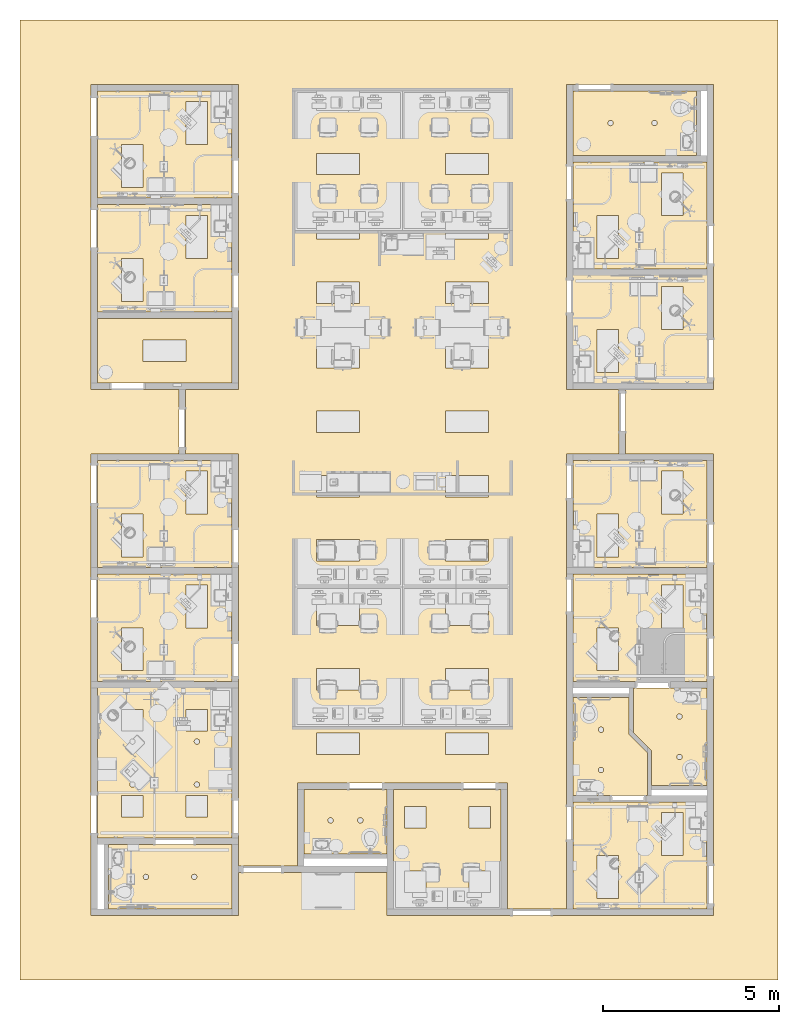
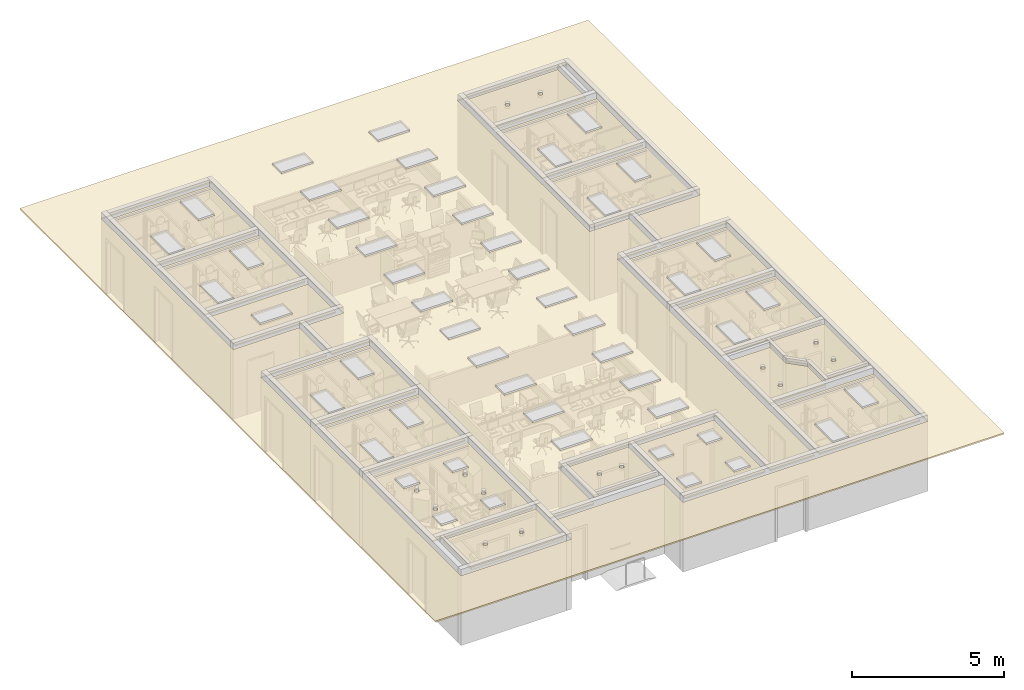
# One storey, part 5 of 142: 17 coverings.
"""IFC2X3 building model written with IfcOpenShell, lengths in feet."""

from ifc_helpers import new_model, entity, si_unit, converted_unit, derived_unit, direction, frame, frame_2d, origin, place, context, subcontext, project, spatial, polyline, circle_curve, parameter, trimmed, segment, composite_curve, outline, extrude, material, layer, layer_set, layer_usage, element, save


model = new_model("IFC2X3")

# Units and contexts
model_context = context("Model", 3, precision=0.0001, world=origin(), true_north=direction((6.12303176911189e-17, 1.0)))
body_context = subcontext(model_context, "Body", "Model", "MODEL_VIEW")
ifc_project = project(units=[converted_unit("LENGTHUNIT", "FOOT", entity("IfcRatioMeasure", 0.3048), si_unit("LENGTHUNIT", "METRE"), dimensions=[1, 0, 0, 0, 0, 0, 0]), converted_unit("AREAUNIT", "SQUARE FOOT", entity("IfcRatioMeasure", 0.09290304), si_unit("AREAUNIT", "SQUARE_METRE"), dimensions=[2, 0, 0, 0, 0, 0, 0]), converted_unit("VOLUMEUNIT", "CUBIC FOOT", entity("IfcRatioMeasure", 0.028316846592), si_unit("VOLUMEUNIT", "CUBIC_METRE"), dimensions=[3, 0, 0, 0, 0, 0, 0]), converted_unit("PLANEANGLEUNIT", "DEGREE", entity("IfcRatioMeasure", 0.0174532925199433), si_unit("PLANEANGLEUNIT", "RADIAN"), dimensions=[0, 0, 0, 0, 0, 0, 0]), si_unit("MASSUNIT", "GRAM", prefix="KILO"), derived_unit("MASSDENSITYUNIT", [(si_unit("MASSUNIT", "GRAM", prefix="KILO"), 1), (si_unit("LENGTHUNIT", "METRE"), -3)]), si_unit("TIMEUNIT", "SECOND"), si_unit("FREQUENCYUNIT", "HERTZ"), si_unit("THERMODYNAMICTEMPERATUREUNIT", "DEGREE_CELSIUS"), derived_unit("THERMALTRANSMITTANCEUNIT", [(si_unit("MASSUNIT", "GRAM", prefix="KILO"), 1), (si_unit("THERMODYNAMICTEMPERATUREUNIT", "KELVIN"), -1), (si_unit("TIMEUNIT", "SECOND"), -3)]), derived_unit("VOLUMETRICFLOWRATEUNIT", [(si_unit("LENGTHUNIT", "METRE"), 3), (si_unit("TIMEUNIT", "SECOND"), -1)]), si_unit("ELECTRICCURRENTUNIT", "AMPERE"), si_unit("ELECTRICVOLTAGEUNIT", "VOLT"), si_unit("POWERUNIT", "WATT"), si_unit("FORCEUNIT", "NEWTON"), si_unit("ILLUMINANCEUNIT", "LUX"), si_unit("LUMINOUSFLUXUNIT", "LUMEN"), si_unit("LUMINOUSINTENSITYUNIT", "CANDELA"), derived_unit("USERDEFINED", [(si_unit("MASSUNIT", "GRAM", prefix="KILO"), -1), (si_unit("LENGTHUNIT", "METRE"), -2), (si_unit("TIMEUNIT", "SECOND"), 3), (si_unit("LUMINOUSFLUXUNIT", "LUMEN"), 1)]), derived_unit("LINEARVELOCITYUNIT", [(si_unit("LENGTHUNIT", "METRE"), 1), (si_unit("TIMEUNIT", "SECOND"), -1)]), si_unit("PRESSUREUNIT", "PASCAL"), derived_unit("USERDEFINED", [(si_unit("LENGTHUNIT", "METRE"), -2), (si_unit("MASSUNIT", "GRAM", prefix="KILO"), 1), (si_unit("TIMEUNIT", "SECOND"), -2)])], contexts=[model_context])

# Site, building, storey
site_placement = place(None, origin())
site = spatial("IfcSite", under=ifc_project, at=site_placement, Name="Default", CompositionType="ELEMENT")
building_placement = place(site_placement, origin())
building = spatial("IfcBuilding", under=site, at=building_placement, Name="OUTPATIENT / PACT CLINIC (Ch. 265)", CompositionType="ELEMENT")
storey_placement = place(building_placement, origin())
storey = spatial("IfcBuildingStorey", under=building, at=storey_placement, Name="LEVEL 1", CompositionType="ELEMENT", Elevation=0.0)

# Coverings
ifc_material_1 = material(Name="<Unnamed>")
ifc_layer_1 = layer(ifc_material_1, 0.135416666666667)
ifc_material_2 = material(Name="Acoustic Ceiling Tile 24 x 24")
ifc_layer_2 = layer(ifc_material_2, 0.0520833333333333)
ifc_layer_set_1 = layer_set([ifc_layer_1, ifc_layer_2], Name="Compound Ceiling:2' x 2' ACT System")
ifc_layer_usage_1 = layer_usage(ifc_layer_set_1, "AXIS3", "POSITIVE", 0.0)
covering_1_placement = place(storey_placement, origin())
element("IfcCovering", 1, at=covering_1_placement, inside=storey, material=ifc_layer_usage_1, Name="Compound Ceiling:2' x 2' ACT System", ObjectType="Compound Ceiling:2' x 2' ACT System", PredefinedType="CEILING", context=body_context, shape_type="SweptSolid", body=[
    extrude(outline(polyline([(-35.3124299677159, -44.7187346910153), (35.3124299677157, -44.7187346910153), (35.3124299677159, 44.7187346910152), (-35.3124299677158, 44.7187346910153), (-35.3124299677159, -44.7187346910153)]), holes=[polyline([(20.4844450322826, -4.30206899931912), (20.4844450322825, -10.3020689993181), (28.6874299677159, -10.3020689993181), (28.6874299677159, -38.7187346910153), (14.9792366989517, -38.7187346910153), (14.9792366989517, -10.3020689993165), (19.8802783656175, -10.3020689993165), (19.8802783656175, -4.30206899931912), (14.9792366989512, -4.30206899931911), (14.9792366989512, 34.1145680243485), (9.47923669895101, 34.1145680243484), (9.479236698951, 26.385431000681), (-10.1042366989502, 26.385431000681), (-10.1042366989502, 38.1145680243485), (-15.6042439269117, 38.1145680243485), (-15.6042439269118, -4.30207903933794), (-20.50513830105, -4.30207903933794), (-20.50513830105, -10.3020689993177), (-15.6040966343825, -10.3020689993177), (-15.6040966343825, -38.7187346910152), (-29.3124314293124, -38.7187346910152), (-29.3124314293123, -10.3020689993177), (-21.1093049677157, -10.3020689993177), (-21.1093049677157, -4.30207903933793), (-29.3124299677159, -4.30207903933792), (-29.3124299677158, 38.7187346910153), (1.1040966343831, 38.7187346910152), (1.1040966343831, 34.7187346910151), (14.9792366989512, 34.7187346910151), (14.9792366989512, 38.7187346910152), (28.6874299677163, 38.7187346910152), (28.6874299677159, -4.30206899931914), (20.4844450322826, -4.30206899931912)]), polyline([(3.68757003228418, 11.6979310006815), (7.68757003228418, 11.6979310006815), (7.68757003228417, 9.69793100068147), (3.68757003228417, 9.69793100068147), (3.68757003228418, 11.6979310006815)]), polyline([(-8.31242996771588, 11.6979310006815), (-4.31242996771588, 11.6979310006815), (-4.31242996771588, 9.69793100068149), (-8.31242996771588, 9.69793100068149), (-8.31242996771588, 11.6979310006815)]), polyline([(-8.31242996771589, 5.69793100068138), (-4.31242996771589, 5.69793100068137), (-4.31242996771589, 3.69793100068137), (-8.31242996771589, 3.69793100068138), (-8.31242996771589, 5.69793100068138)]), polyline([(3.68757003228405, 5.69793100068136), (7.68757003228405, 5.69793100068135), (7.68757003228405, 3.69793100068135), (3.68757003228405, 3.69793100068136), (3.68757003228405, 5.69793100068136)]), polyline([(3.68757003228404, -0.302068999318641), (7.68757003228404, -0.302068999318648), (7.68757003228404, -2.30206899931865), (3.68757003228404, -2.30206899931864), (3.68757003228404, -0.302068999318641)]), polyline([(-8.31242996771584, -0.302068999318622), (-4.31242996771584, -0.302068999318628), (-4.31242996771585, -2.30206899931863), (-8.31242996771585, -2.30206899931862), (-8.31242996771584, -0.302068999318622)]), polyline([(-8.31242996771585, -6.30206899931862), (-4.31242996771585, -6.30206899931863), (-4.31242996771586, -8.30206899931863), (-8.31242996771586, -8.30206899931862), (-8.31242996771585, -6.30206899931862)]), polyline([(3.68757003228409, -6.30206899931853), (7.68757003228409, -6.30206899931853), (7.68757003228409, -8.30206899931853), (3.68757003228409, -8.30206899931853), (3.68757003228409, -6.30206899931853)]), polyline([(-8.31242996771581, -12.3020689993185), (-4.31242996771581, -12.3020689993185), (-4.31242996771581, -14.3020689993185), (-8.31242996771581, -14.3020689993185), (-8.31242996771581, -12.3020689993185)]), polyline([(3.68757003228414, -12.3020689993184), (7.68757003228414, -12.3020689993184), (7.68757003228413, -14.3020689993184), (3.68757003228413, -14.3020689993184), (3.68757003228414, -12.3020689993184)]), polyline([(3.68757003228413, -18.3020689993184), (7.68757003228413, -18.3020689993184), (7.68757003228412, -20.3020689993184), (3.68757003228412, -20.3020689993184), (3.68757003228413, -18.3020689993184)]), polyline([(-8.31242996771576, -18.3020689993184), (-4.31242996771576, -18.3020689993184), (-4.31242996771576, -20.3020689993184), (-8.31242996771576, -20.3020689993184), (-8.31242996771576, -18.3020689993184)]), polyline([(-8.312429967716, -24.3020689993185), (-4.312429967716, -24.3020689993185), (-4.312429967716, -26.3020689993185), (-8.312429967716, -26.3020689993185), (-8.312429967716, -24.3020689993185)]), polyline([(3.68757003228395, -24.3020689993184), (7.68757003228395, -24.3020689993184), (7.68757003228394, -26.3020689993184), (3.68757003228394, -26.3020689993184), (3.68757003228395, -24.3020689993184)]), polyline([(3.68757003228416, -30.3020689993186), (7.68757003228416, -30.3020689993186), (7.68757003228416, -32.3020689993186), (3.68757003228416, -32.3020689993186), (3.68757003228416, -30.3020689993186)]), polyline([(-8.31242996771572, -30.3020689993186), (-4.31242996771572, -30.3020689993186), (-4.31242996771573, -32.3020689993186), (-8.31242996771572, -32.3020689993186), (-8.31242996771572, -30.3020689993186)]), polyline([(-8.31242996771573, -36.3020689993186), (-4.31242996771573, -36.3020689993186), (-4.31242996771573, -38.3020689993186), (-8.31242996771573, -38.3020689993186), (-8.31242996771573, -36.3020689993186)]), polyline([(3.68757003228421, -36.3020689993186), (7.68757003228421, -36.3020689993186), (7.68757003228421, -38.3020689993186), (3.68757003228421, -38.3020689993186), (3.68757003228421, -36.3020689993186)]), polyline([(3.6875700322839, 17.6979310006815), (7.6875700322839, 17.6979310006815), (7.6875700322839, 15.6979310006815), (3.6875700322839, 15.6979310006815), (3.6875700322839, 17.6979310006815)]), polyline([(-8.31242996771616, 17.6979310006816), (-4.31242996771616, 17.6979310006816), (-4.31242996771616, 15.6979310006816), (-8.31242996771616, 15.6979310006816), (-8.31242996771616, 17.6979310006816)]), polyline([(3.68757003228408, 23.6979310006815), (7.68757003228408, 23.6979310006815), (7.68757003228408, 21.6979310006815), (3.68757003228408, 21.6979310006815), (3.68757003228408, 23.6979310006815)]), polyline([(-8.3124299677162, 23.6979310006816), (-4.3124299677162, 23.6979310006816), (-4.31242996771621, 21.6979310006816), (-8.31242996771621, 21.6979310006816), (-8.3124299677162, 23.6979310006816)])]), frame((419.046713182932, -914.535087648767, 9.0), z_axis=(0.0, 0.0, 1.0), x_axis=(-1.0, 0.0, 0.0)), (0.0, 0.0, 1.0), 0.1875),
])
ifc_layer_usage_2 = layer_usage(ifc_layer_set_1, "AXIS3", "POSITIVE", 0.0)
covering_2_placement = place(storey_placement, origin())
element("IfcCovering", 2, at=covering_2_placement, inside=storey, material=ifc_layer_usage_2, Name="Compound Ceiling:2' x 2' ACT System", ObjectType="Compound Ceiling:2' x 2' ACT System", PredefinedType="CEILING", context=body_context, shape_type="SweptSolid", body=[
    extrude(outline(polyline([(-5.56248517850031, -5.0), (5.56248517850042, -5.0), (5.56248517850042, 5.0), (-5.56248517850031, 5.0), (-5.56248517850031, -5.0)]), holes=[polyline([(-4.0, 4.0), (-2.0, 4.0), (-2.0, 2.0), (-4.0, 2.0), (-4.0, 4.0)]), polyline([(-4.0, -2.0), (-2.0, -2.0), (-2.0, -4.0), (-4.0, -4.0), (-4.0, -2.0)]), polyline([(2.0, 4.0), (4.0, 4.0), (4.0, 2.0), (2.0, 2.0), (2.0, 4.0)]), polyline([(2.0, -2.0), (4.0, -2.0), (4.0, -4.0), (2.0, -4.0), (2.0, -2.0)])]), frame((423.546783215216, -947.087170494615, 9.0), z_axis=(0.0, 0.0, 1.0), x_axis=(0.0, 1.0, 0.0)), (0.0, 0.0, 1.0), 0.1875),
])
ifc_layer_3 = layer(ifc_material_1, 0.302083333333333)
ifc_material_3 = material(Name="Gypsum Wallboard")
ifc_layer_4 = layer(ifc_material_3, 0.0520833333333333)
ifc_layer_set_2 = layer_set([ifc_layer_3, ifc_layer_4], Name="Compound Ceiling:GWB on Mtl. Stud")
ifc_layer_usage_3 = layer_usage(ifc_layer_set_2, "AXIS3", "POSITIVE", 0.0)
covering_3_placement = place(storey_placement, origin())
element("IfcCovering", 3, at=covering_3_placement, inside=storey, material=ifc_layer_usage_3, Name="Compound Ceiling:GWB on Mtl. Stud", ObjectType="Compound Ceiling:GWB on Mtl. Stud", PredefinedType="CEILING", context=body_context, shape_type="SweptSolid", body=[
    extrude(outline(polyline([(-2.99998517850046, -3.88548669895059), (2.99998517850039, -3.88548669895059), (2.99998517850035, 3.88548669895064), (-2.99998517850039, 3.8854866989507), (-2.99998517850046, -3.88548669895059)]), holes=[composite_curve([segment(trimmed(circle_curve(frame_2d((0.140624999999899, 1.38548669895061), x_axis=(0.0, -1.0)), 0.25), [parameter(180.0)], [parameter(1.01777749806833e-13)], True, "PARAMETER"), False, "CONTINUOUS"), segment(trimmed(circle_curve(frame_2d((0.140624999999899, 1.38548669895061), x_axis=(0.0, -1.0)), 0.25), [parameter(1.01777749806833e-13)], [parameter(180.0)], True, "PARAMETER"), False, "CONTINUOUS")], self_intersect=False), composite_curve([segment(trimmed(circle_curve(frame_2d((0.140624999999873, -1.38548669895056), x_axis=(0.0, -1.0)), 0.25), [parameter(180.0)], [parameter(1.01777749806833e-13)], True, "PARAMETER"), False, "CONTINUOUS"), segment(trimmed(circle_curve(frame_2d((0.140624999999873, -1.38548669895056), x_axis=(0.0, -1.0)), 0.25), [parameter(1.01777749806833e-13)], [parameter(180.0)], True, "PARAMETER"), False, "CONTINUOUS")], self_intersect=False)]), frame((414.057129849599, -944.524670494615, 9.0), z_axis=(0.0, 0.0, 1.0), x_axis=(0.0, 1.0, 0.0)), (0.0, 0.0, 1.0), 0.354166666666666),
    extrude(outline(polyline([(-4.59994397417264, -3.18408731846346), (6.8999159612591, -3.18408731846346), (6.89991596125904, 2.81586463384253), (-4.5999439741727, 2.81586463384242), (-4.59994397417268, 0.736445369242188), (-4.59994397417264, -3.18408731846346)]), holes=[composite_curve([segment(trimmed(circle_curve(frame_2d((3.39996264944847, -0.184111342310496), x_axis=(-1.0, 0.0)), 0.25), [parameter(180.0)], [parameter(1.01777749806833e-13)], True, "PARAMETER"), False, "CONTINUOUS"), segment(trimmed(circle_curve(frame_2d((3.39996264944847, -0.184111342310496), x_axis=(-1.0, 0.0)), 0.25), [parameter(1.01777749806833e-13)], [parameter(180.0)], True, "PARAMETER"), False, "CONTINUOUS")], self_intersect=False), composite_curve([segment(trimmed(circle_curve(frame_2d((-1.09999066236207, -0.184111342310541), x_axis=(-1.0, 0.0)), 0.25), [parameter(180.0)], [parameter(1.01777749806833e-13)], True, "PARAMETER"), False, "CONTINUOUS"), segment(trimmed(circle_curve(frame_2d((-1.09999066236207, -0.184111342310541), x_axis=(-1.0, 0.0)), 0.25), [parameter(1.01777749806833e-13)], [parameter(180.0)], True, "PARAMETER"), False, "CONTINUOUS")], self_intersect=False)]), frame((398.863365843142, -949.833791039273, 9.0), z_axis=(0.0, 0.0, 1.0), x_axis=(-1.0, 0.0, 0.0)), (0.0, 0.0, 1.0), 0.354166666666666),
])
ifc_layer_usage_4 = layer_usage(ifc_layer_set_1, "AXIS3", "POSITIVE", 0.0)
covering_4_placement = place(storey_placement, origin())
element("IfcCovering", 4, at=covering_4_placement, inside=storey, material=ifc_layer_usage_4, Name="Compound Ceiling:2' x 2' ACT System", ObjectType="Compound Ceiling:2' x 2' ACT System", PredefinedType="CEILING", context=body_context, shape_type="SweptSolid", body=[
    extrude(outline(polyline([(-6.24992996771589, -7.04078852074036), (6.24992996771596, -7.04078852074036), (6.24992996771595, 7.04078852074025), (-6.24992996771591, 7.04078852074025), (-6.24992996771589, -7.04078852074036)]), holes=[polyline([(4.0, 5.0407793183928), (4.0, 3.0407793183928), (2.0, 3.04077931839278), (2.0, 5.04077931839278), (4.0, 5.0407793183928)]), polyline([(-2.0, 5.04077931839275), (-2.0, 3.04077931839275), (-4.0, 3.04077931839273), (-4.0, 5.04077931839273), (-2.0, 5.04077931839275)]), composite_curve([segment(trimmed(circle_curve(frame_2d((-3.0, 2.04077011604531), x_axis=(-1.0, 0.0)), 0.25), [parameter(180.0)], [parameter(1.01777749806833e-13)], True, "PARAMETER"), False, "CONTINUOUS"), segment(trimmed(circle_curve(frame_2d((-3.0, 2.04077011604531), x_axis=(-1.0, 0.0)), 0.25), [parameter(1.01777749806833e-13)], [parameter(180.0)], True, "PARAMETER"), False, "CONTINUOUS")], self_intersect=False), composite_curve([segment(trimmed(circle_curve(frame_2d((3.0, 2.04077011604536), x_axis=(-1.0, 0.0)), 0.25), [parameter(180.0)], [parameter(1.01777749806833e-13)], True, "PARAMETER"), False, "CONTINUOUS"), segment(trimmed(circle_curve(frame_2d((3.0, 2.04077011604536), x_axis=(-1.0, 0.0)), 0.25), [parameter(1.01777749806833e-13)], [parameter(180.0)], True, "PARAMETER"), False, "CONTINUOUS")], self_intersect=False), composite_curve([segment(trimmed(circle_curve(frame_2d((-3.0, -1.95922068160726), x_axis=(-1.0, 0.0)), 0.25), [parameter(180.0)], [parameter(1.01777749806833e-13)], True, "PARAMETER"), False, "CONTINUOUS"), segment(trimmed(circle_curve(frame_2d((-3.0, -1.95922068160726), x_axis=(-1.0, 0.0)), 0.25), [parameter(1.01777749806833e-13)], [parameter(180.0)], True, "PARAMETER"), False, "CONTINUOUS")], self_intersect=False), composite_curve([segment(trimmed(circle_curve(frame_2d((3.0, -1.95922068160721), x_axis=(-1.0, 0.0)), 0.25), [parameter(180.0)], [parameter(1.01777749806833e-13)], True, "PARAMETER"), False, "CONTINUOUS"), segment(trimmed(circle_curve(frame_2d((3.0, -1.95922068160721), x_axis=(-1.0, 0.0)), 0.25), [parameter(1.01777749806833e-13)], [parameter(180.0)], True, "PARAMETER"), False, "CONTINUOUS")], self_intersect=False), polyline([(4.0, -2.9592206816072), (4.0, -4.9592206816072), (2.0, -4.95922068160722), (2.0, -2.95922068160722), (4.0, -2.9592206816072)]), polyline([(-2.0, -2.95922068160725), (-2.0, -4.95922068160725), (-4.0, -4.95922068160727), (-4.0, -2.95922068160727), (-2.0, -2.95922068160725)])]), frame((397.213379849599, -939.004748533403, 9.0), z_axis=(0.0, 0.0, 1.0), x_axis=(-1.0, 0.0, 0.0)), (0.0, 0.0, 1.0), 0.1875),
])
ifc_layer_usage_5 = layer_usage(ifc_layer_set_1, "AXIS3", "POSITIVE", 0.0)
covering_5_placement = place(storey_placement, origin())
element("IfcCovering", 5, at=covering_5_placement, inside=storey, material=ifc_layer_usage_5, Name="Compound Ceiling:2' x 2' ACT System", ObjectType="Compound Ceiling:2' x 2' ACT System", PredefinedType="CEILING", context=body_context, shape_type="SweptSolid", body=[
    extrude(outline(polyline([(-6.24992996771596, -5.0), (6.24992996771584, -5.0), (6.2499299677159, 5.0), (-6.2499299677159, 5.0), (-6.24992996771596, -5.0)]), holes=[polyline([(4.00000496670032, 0.0), (2.00000496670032, 0.0), (2.00000496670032, 4.0), (4.00000496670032, 4.0), (4.00000496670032, 0.0)]), polyline([(-4.0, -4.0), (-4.0, 0.0), (-2.0, 0.0), (-2.0, -4.0), (-4.0, -4.0)])]), frame((397.213379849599, -926.441351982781, 9.0), z_axis=(0.0, 0.0, 1.0), x_axis=(-1.0, 0.0, 0.0)), (0.0, 0.0, 1.0), 0.1875),
])
ifc_layer_usage_6 = layer_usage(ifc_layer_set_1, "AXIS3", "POSITIVE", 0.0)
covering_6_placement = place(storey_placement, origin())
element("IfcCovering", 6, at=covering_6_placement, inside=storey, material=ifc_layer_usage_6, Name="Compound Ceiling:2' x 2' ACT System", ObjectType="Compound Ceiling:2' x 2' ACT System", PredefinedType="CEILING", context=body_context, shape_type="SweptSolid", body=[
    extrude(outline(polyline([(-6.2499299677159, -5.0), (6.2499299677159, -5.0), (6.2499299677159, 5.0), (-6.2499299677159, 5.0), (-6.2499299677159, -5.0)]), holes=[polyline([(4.00000496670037, 0.0), (2.00000496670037, 0.0), (2.00000496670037, 4.0), (4.00000496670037, 4.0), (4.00000496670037, 0.0)]), polyline([(-4.0, -4.0), (-4.0, 0.0), (-2.0, 0.0), (-2.0, -4.0), (-4.0, -4.0)])]), frame((397.213379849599, -915.837185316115, 9.0), z_axis=(0.0, 0.0, 1.0), x_axis=(-1.0, 0.0, 0.0)), (0.0, 0.0, 1.0), 0.1875),
])
ifc_layer_usage_7 = layer_usage(ifc_layer_set_1, "AXIS3", "POSITIVE", 0.0)
covering_7_placement = place(storey_placement, origin())
element("IfcCovering", 7, at=covering_7_placement, inside=storey, material=ifc_layer_usage_7, Name="Compound Ceiling:2' x 2' ACT System", ObjectType="Compound Ceiling:2' x 2' ACT System", PredefinedType="CEILING", context=body_context, shape_type="SweptSolid", body=[
    extrude(outline(polyline([(-6.24992996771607, -2.99999951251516), (6.24992996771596, -2.99999951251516), (6.24992996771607, 2.99999951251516), (-6.24992996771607, 2.99999951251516), (-6.24992996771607, -2.99999951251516)]), holes=[polyline([(2.0, -1.0), (-2.0, -1.0), (-2.0, 1.0), (2.0, 1.0), (2.0, -1.0)])]), frame((397.213379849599, -900.628852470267, 9.0), z_axis=(0.0, 0.0, 1.0), x_axis=(-1.0, 0.0, 0.0)), (0.0, 0.0, 1.0), 0.1875),
])
ifc_layer_usage_8 = layer_usage(ifc_layer_set_1, "AXIS3", "POSITIVE", 0.0)
covering_8_placement = place(storey_placement, origin())
element("IfcCovering", 8, at=covering_8_placement, inside=storey, material=ifc_layer_usage_8, Name="Compound Ceiling:2' x 2' ACT System", ObjectType="Compound Ceiling:2' x 2' ACT System", PredefinedType="CEILING", context=body_context, shape_type="SweptSolid", body=[
    extrude(outline(polyline([(-5.0, -6.24992996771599), (5.0, -6.24992996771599), (5.0, 6.24992996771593), (-5.0, 6.24992996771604), (-5.0, -6.24992996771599)]), holes=[polyline([(0.0, 4.0), (0.0, 2.0), (-4.0, 2.0), (-4.0, 4.0), (0.0, 4.0)]), polyline([(4.0, -4.0), (0.0, -4.0), (0.0, -2.0), (4.0, -2.0), (4.0, -4.0)])]), frame((397.213379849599, -892.024686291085, 9.0), z_axis=(0.0, 0.0, 1.0), x_axis=(0.0, 1.0, 0.0)), (0.0, 0.0, 1.0), 0.1875),
])
ifc_layer_usage_9 = layer_usage(ifc_layer_set_1, "AXIS3", "POSITIVE", 0.0)
covering_9_placement = place(storey_placement, origin())
element("IfcCovering", 9, at=covering_9_placement, inside=storey, material=ifc_layer_usage_9, Name="Compound Ceiling:2' x 2' ACT System", ObjectType="Compound Ceiling:2' x 2' ACT System", PredefinedType="CEILING", context=body_context, shape_type="SweptSolid", body=[
    extrude(outline(polyline([(-5.0, -6.24992996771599), (5.0, -6.24992996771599), (5.0, 6.24992996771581), (-5.0, 6.24992996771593), (-5.0, -6.24992996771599)]), holes=[polyline([(0.0, 4.0), (0.0, 2.0), (-4.0, 2.0), (-4.0, 4.0), (0.0, 4.0)]), polyline([(4.0, -4.0), (0.0, -4.0), (0.0, -2.0), (4.0, -2.0), (4.0, -4.0)])]), frame((397.213379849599, -881.420519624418, 9.0), z_axis=(0.0, 0.0, 1.0), x_axis=(0.0, 1.0, 0.0)), (0.0, 0.0, 1.0), 0.1875),
])
ifc_layer_usage_10 = layer_usage(ifc_layer_set_1, "AXIS3", "POSITIVE", 0.0)
covering_10_placement = place(storey_placement, origin())
element("IfcCovering", 10, at=covering_10_placement, inside=storey, material=ifc_layer_usage_10, Name="Compound Ceiling:2' x 2' ACT System", ObjectType="Compound Ceiling:2' x 2' ACT System", PredefinedType="CEILING", context=body_context, shape_type="SweptSolid", body=[
    extrude(outline(polyline([(-5.0407204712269, -6.33326403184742), (5.04072047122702, -6.33326403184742), (5.04072047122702, 6.33326403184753), (-5.0407204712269, 6.33326403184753), (-5.0407204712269, -6.33326403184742)]), holes=[polyline([(3.97602059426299, -4.00000073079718), (-0.0239794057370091, -4.00000073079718), (-0.0239794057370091, -2.00000073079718), (3.97602059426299, -2.00000073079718), (3.97602059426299, -4.00000073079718)]), polyline([(-0.0239794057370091, 1.99999926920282), (-4.02397940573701, 1.99999926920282), (-4.02397940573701, 3.99999926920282), (-0.0239794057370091, 3.99999926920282), (-0.0239794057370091, 1.99999926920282)])]), frame((441.505047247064, -898.627775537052, 9.0), z_axis=(0.0, 0.0, 1.0), x_axis=(0.0, 1.0, 0.0)), (0.0, 0.0, 1.0), 0.1875),
])
ifc_layer_usage_11 = layer_usage(ifc_layer_set_1, "AXIS3", "POSITIVE", 0.0)
covering_11_placement = place(storey_placement, origin())
element("IfcCovering", 11, at=covering_11_placement, inside=storey, material=ifc_layer_usage_11, Name="Compound Ceiling:2' x 2' ACT System", ObjectType="Compound Ceiling:2' x 2' ACT System", PredefinedType="CEILING", context=body_context, shape_type="SweptSolid", body=[
    extrude(outline(polyline([(-6.25000073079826, -4.99994532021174), (6.25000073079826, -4.99994532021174), (6.25000073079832, 4.99994532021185), (-6.25000073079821, 4.99994532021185), (-6.25000073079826, -4.99994532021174)]), holes=[polyline([(3.99992923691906, 0.0229680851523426), (1.999929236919, 0.0229680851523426), (1.99992923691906, 4.02296808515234), (3.99992923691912, 4.02296808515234), (3.99992923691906, 0.0229680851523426)]), polyline([(-4.00007076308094, -3.97703191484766), (-4.00007076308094, 0.0229680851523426), (-2.00007076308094, 0.0229680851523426), (-2.00007076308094, -3.97703191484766), (-4.00007076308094, -3.97703191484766)])]), frame((441.50497721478, -888.024609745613, 9.0), z_axis=(0.0, 0.0, 1.0), x_axis=(-1.0, 0.0, 0.0)), (0.0, 0.0, 1.0), 0.1875),
])
ifc_layer_usage_12 = layer_usage(ifc_layer_set_1, "AXIS3", "POSITIVE", 0.0)
covering_12_placement = place(storey_placement, origin())
element("IfcCovering", 12, at=covering_12_placement, inside=storey, material=ifc_layer_usage_12, Name="Compound Ceiling:2' x 2' ACT System", ObjectType="Compound Ceiling:2' x 2' ACT System", PredefinedType="CEILING", context=body_context, shape_type="SweptSolid", body=[
    extrude(outline(polyline([(-5.0, -6.24992508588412), (5.0, -6.24992508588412), (5.0, 6.24994845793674), (-5.0, 6.24990171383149), (-5.0, -6.24992508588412)]), holes=[polyline([(4.0, -4.00014585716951), (0.0, -4.00014585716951), (0.0, -2.00014585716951), (4.0, -2.00014585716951), (4.0, -4.00014585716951)]), polyline([(0.0, 1.99985414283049), (-4.0, 1.99985414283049), (-4.0, 3.99985414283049), (0.0, 3.99985414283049), (0.0, 1.99985414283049)])]), frame((441.504902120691, -926.441341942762, 9.0), z_axis=(0.0, 0.0, 1.0), x_axis=(0.0, 1.0, 0.0)), (0.0, 0.0, 1.0), 0.1875),
])
ifc_layer_usage_13 = layer_usage(ifc_layer_set_1, "AXIS3", "POSITIVE", 0.0)
covering_13_placement = place(storey_placement, origin())
element("IfcCovering", 13, at=covering_13_placement, inside=storey, material=ifc_layer_usage_13, Name="Compound Ceiling:2' x 2' ACT System", ObjectType="Compound Ceiling:2' x 2' ACT System", PredefinedType="CEILING", context=body_context, shape_type="SweptSolid", body=[
    extrude(outline(polyline([(-5.0, -6.24993877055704), (5.0, -6.24993877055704), (5.0, 6.24996214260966), (-5.0, 6.24991539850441), (-5.0, -6.24993877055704)]), holes=[polyline([(4.0, -4.00015954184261), (0.0, -4.00015954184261), (0.0, -2.00015954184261), (4.0, -2.00015954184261), (4.0, -4.00015954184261)]), polyline([(0.0, 1.99984045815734), (-4.0, 1.99984045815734), (-4.0, 3.99984045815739), (0.0, 3.99984045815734), (0.0, 1.99984045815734)])]), frame((441.505039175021, -947.649655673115, 9.0), z_axis=(0.0, 0.0, 1.0), x_axis=(0.0, 1.0, 0.0)), (0.0, 0.0, 1.0), 0.1875),
])
ifc_layer_usage_14 = layer_usage(ifc_layer_set_2, "AXIS3", "POSITIVE", 0.0)
covering_14_placement = place(storey_placement, origin())
element("IfcCovering", 14, at=covering_14_placement, inside=storey, material=ifc_layer_usage_14, Name="Compound Ceiling:GWB on Mtl. Stud", ObjectType="Compound Ceiling:GWB on Mtl. Stud", PredefinedType="CEILING", context=body_context, shape_type="SweptSolid", body=[
    extrude(outline(polyline([(-2.41089735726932, 1.63665859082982), (-5.34733101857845, -1.29977507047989), (-0.483971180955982, -6.16313490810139), (5.9462672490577, 0.267103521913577), (2.2908814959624, 3.92248927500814), (0.00505081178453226, 1.63665859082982), (-2.41089735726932, 1.63665859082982)]), holes=[composite_curve([segment(trimmed(circle_curve(frame_2d((2.23295628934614, 0.209178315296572), x_axis=(0.707106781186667, -0.707106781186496)), 0.25), [parameter(180.0)], [parameter(0.0)], True, "PARAMETER"), False, "CONTINUOUS"), segment(trimmed(circle_curve(frame_2d((2.23295628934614, 0.209178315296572), x_axis=(0.707106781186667, -0.707106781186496)), 0.25), [parameter(0.0)], [parameter(180.0)], True, "PARAMETER"), False, "CONTINUOUS")], self_intersect=False), composite_curve([segment(trimmed(circle_curve(frame_2d((-0.426045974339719, -2.44982394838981), x_axis=(0.707106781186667, -0.707106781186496)), 0.25), [parameter(180.0)], [parameter(0.0)], True, "PARAMETER"), False, "CONTINUOUS"), segment(trimmed(circle_curve(frame_2d((-0.426045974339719, -2.44982394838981), x_axis=(0.707106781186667, -0.707106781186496)), 0.25), [parameter(0.0)], [parameter(180.0)], True, "PARAMETER"), False, "CONTINUOUS")], self_intersect=False)]), frame((443.739202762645, -936.745722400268, 9.0), z_axis=(0.0, 0.0, -1.0), x_axis=(0.707106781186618, -0.707106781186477, 0.0)), (0.0, 0.0, -1.0), 0.354166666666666),
])
ifc_layer_usage_15 = layer_usage(ifc_layer_set_2, "AXIS3", "POSITIVE", 0.0)
covering_15_placement = place(storey_placement, origin())
element("IfcCovering", 15, at=covering_15_placement, inside=storey, material=ifc_layer_usage_15, Name="Compound Ceiling:GWB on Mtl. Stud", ObjectType="Compound Ceiling:GWB on Mtl. Stud", PredefinedType="CEILING", context=body_context, shape_type="SweptSolid", body=[
    extrude(outline(polyline([(-4.63950851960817, -2.87750407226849), (-0.66888002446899, -2.87750407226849), (1.03945330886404, -1.16917073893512), (4.45422187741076, -1.16917073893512), (4.45422187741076, 4.04669606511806), (-4.63950851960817, 4.04665355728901), (-4.63950851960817, -2.87750407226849)]), holes=[composite_curve([segment(trimmed(circle_curve(frame_2d((-2.2920094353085, 1.4387450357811), x_axis=(0.0, 1.0)), 0.25), [parameter(180.0)], [parameter(0.0)], True, "PARAMETER"), False, "CONTINUOUS"), segment(trimmed(circle_curve(frame_2d((-2.2920094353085, 1.4387450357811), x_axis=(0.0, 1.0)), 0.25), [parameter(0.0)], [parameter(180.0)], True, "PARAMETER"), False, "CONTINUOUS")], self_intersect=False), composite_curve([segment(trimmed(circle_curve(frame_2d((1.46838762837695, 1.4387450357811), x_axis=(0.0, 1.0)), 0.25), [parameter(180.0)], [parameter(0.0)], True, "PARAMETER"), False, "CONTINUOUS"), segment(trimmed(circle_curve(frame_2d((1.46838762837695, 1.4387450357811), x_axis=(0.0, 1.0)), 0.25), [parameter(0.0)], [parameter(180.0)], True, "PARAMETER"), False, "CONTINUOUS")], self_intersect=False)]), frame((439.301727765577, -937.40598048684, 9.0), z_axis=(0.0, 0.0, 1.0), x_axis=(0.0, 1.0, 0.0)), (0.0, 0.0, 1.0), 0.354166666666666),
])
ifc_layer_usage_16 = layer_usage(ifc_layer_set_2, "AXIS3", "POSITIVE", 0.0)
covering_16_placement = place(storey_placement, origin())
element("IfcCovering", 16, at=covering_16_placement, inside=storey, material=ifc_layer_usage_16, Name="Compound Ceiling:GWB on Mtl. Stud", ObjectType="Compound Ceiling:GWB on Mtl. Stud", PredefinedType="CEILING", context=body_context, shape_type="SweptSolid", body=[
    extrude(outline(polyline([(-5.75, -2.99998906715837), (5.75, -2.99998906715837), (5.75, 2.99998906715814), (-5.75, 2.99998906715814), (-5.75, -2.99998906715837)]), holes=[composite_curve([segment(trimmed(circle_curve(frame_2d((-1.84375, 0.0), x_axis=(-1.0, 0.0)), 0.25), [parameter(180.0)], [parameter(1.01777749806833e-13)], True, "PARAMETER"), False, "CONTINUOUS"), segment(trimmed(circle_curve(frame_2d((-1.84375, 0.0), x_axis=(-1.0, 0.0)), 0.25), [parameter(1.01777749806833e-13)], [parameter(180.0)], True, "PARAMETER"), False, "CONTINUOUS")], self_intersect=False), composite_curve([segment(trimmed(circle_curve(frame_2d((2.25, 0.0), x_axis=(-1.0, 0.0)), 0.25), [parameter(180.0)], [parameter(1.01777749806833e-13)], True, "PARAMETER"), False, "CONTINUOUS"), segment(trimmed(circle_curve(frame_2d((2.25, 0.0), x_axis=(-1.0, 0.0)), 0.25), [parameter(1.01777749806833e-13)], [parameter(180.0)], True, "PARAMETER"), False, "CONTINUOUS")], self_intersect=False)]), frame((441.004976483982, -879.420508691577, 9.0), z_axis=(0.0, 0.0, 1.0), x_axis=(-1.0, 0.0, 0.0)), (0.0, 0.0, 1.0), 0.354166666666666),
])
ifc_layer_usage_17 = layer_usage(ifc_layer_set_1, "AXIS3", "POSITIVE", 0.0)
covering_17_placement = place(storey_placement, origin())
element("IfcCovering", 17, at=covering_17_placement, inside=storey, material=ifc_layer_usage_17, Name="Compound Ceiling:2' x 2' ACT System", ObjectType="Compound Ceiling:2' x 2' ACT System", PredefinedType="CEILING", context=body_context, shape_type="SweptSolid", body=[
    extrude(outline(polyline([(-5.0, -6.24992536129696), (5.0, -6.24992536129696), (5.0, 6.24992536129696), (-5.0, 6.24992536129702), (-5.0, -6.24992536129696)]), holes=[polyline([(4.0, -4.00014613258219), (0.0, -4.00014613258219), (0.0, -2.00014613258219), (4.0, -2.00014613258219), (4.0, -4.00014613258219)]), polyline([(0.0, 1.99985386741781), (-4.0, 1.99985386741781), (-4.0, 3.99985386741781), (0.0, 3.99985386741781), (0.0, 1.99985386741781)])]), frame((441.504901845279, -915.837175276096, 9.0), z_axis=(0.0, 0.0, 1.0), x_axis=(0.0, 1.0, 0.0)), (0.0, 0.0, 1.0), 0.1875),
])

save(model, "model.ifc")
